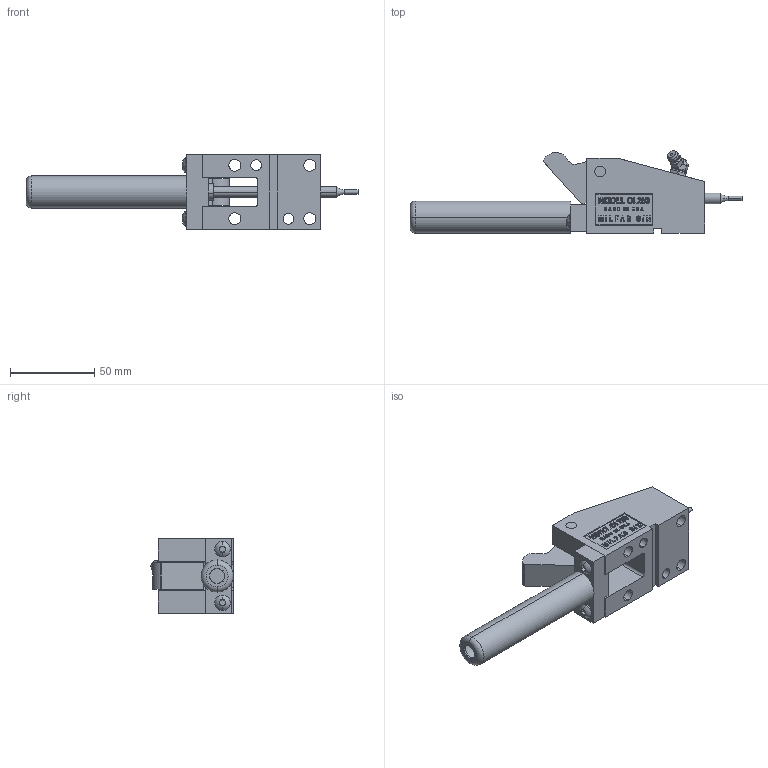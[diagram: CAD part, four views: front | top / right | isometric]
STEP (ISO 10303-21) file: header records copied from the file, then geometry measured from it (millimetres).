
FILE_DESCRIPTION (( 'STEP AP214' ), '1' );
FILE_NAME ('OL25045-O.STEP', '2014-01-05T20:36:17', ( 'user' ), ( '' ), 'SwSTEP 2.0', 'SolidWorks 2009', '' );
FILE_SCHEMA (( 'AUTOMOTIVE_DESIGN' ));
Length unit declared in the file: inch
Products named in the file (10): OL250-PUNCH; 250 PIVOT PIN; O-250-POINT; OL250-CAGE; 250-O-STRAP; GREASE ZERK; 10-SCREW; 250-OFFSET TRIGGER; OL25045-O; OL250-BODY
Assembly tree (10 placements, depth 2):
  OL25045-O
    250-O-STRAP
    OL250-BODY
    10-SCREW  x2
    GREASE ZERK
    OL250-CAGE
    250 PIVOT PIN
    O-250-POINT
    OL250-PUNCH
    250-OFFSET TRIGGER
Bounding box: 196.85 x 48.87 x 44.45 mm (x, y, z)
Volume: 109892.2 mm3; surface area: 45417 mm2
Topology: 10 solids, 10 shells, 585 faces, 1512 edges, 995 vertices
Faces by surface type: plane 340, cylinder 98, bspline 97, torus 26, cone 24
Entity records: 23373 total; most frequent: CARTESIAN_POINT 9746, ORIENTED_EDGE 2944, DIRECTION 2356, EDGE_CURVE 1472, VERTEX_POINT 971, LINE 956, VECTOR 956, AXIS2_PLACEMENT_3D 700
